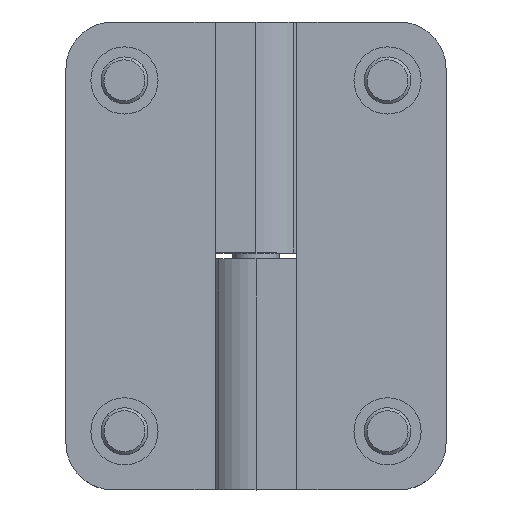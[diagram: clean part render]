
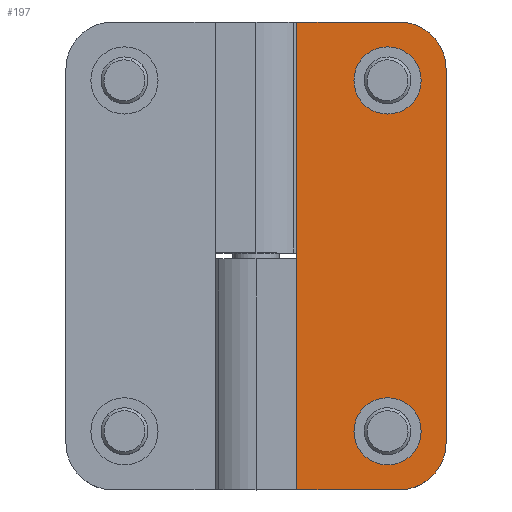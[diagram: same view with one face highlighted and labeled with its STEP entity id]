
A CAD part, top view. The second image highlights one B-rep face of the part: STEP entity #197.
In plain terms, the highlighted planar face has unit normal (0, 0, 1).
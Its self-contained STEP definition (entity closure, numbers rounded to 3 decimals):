
#2 = VERTEX_POINT ( 'NONE', #438 ) ;
#45 = EDGE_CURVE ( 'NONE', #284, #159, #700, .T. ) ;
#46 = ORIENTED_EDGE ( 'NONE', *, *, #196, .T. ) ;
#47 = ORIENTED_EDGE ( 'NONE', *, *, #48, .T. ) ;
#48 = EDGE_CURVE ( 'NONE', #194, #116, #695, .T. ) ;
#49 = ORIENTED_EDGE ( 'NONE', *, *, #100, .T. ) ;
#50 = ORIENTED_EDGE ( 'NONE', *, *, #207, .T. ) ;
#64 = ORIENTED_EDGE ( 'NONE', *, *, #286, .T. ) ;
#65 = ORIENTED_EDGE ( 'NONE', *, *, #45, .T. ) ;
#100 = EDGE_CURVE ( 'NONE', #116, #115, #634, .T. ) ;
#115 = VERTEX_POINT ( 'NONE', #799 ) ;
#116 = VERTEX_POINT ( 'NONE', #798 ) ;
#135 = EDGE_LOOP ( 'NONE', ( #64, #65, #46, #47, #49, #50 ) ) ;
#159 = VERTEX_POINT ( 'NONE', #681 ) ;
#180 = VERTEX_POINT ( 'NONE', #872 ) ;
#194 = VERTEX_POINT ( 'NONE', #891 ) ;
#196 = EDGE_CURVE ( 'NONE', #159, #194, #890, .T. ) ;
#197 = ADVANCED_FACE ( 'NONE', ( #886, #885, #884 ), #883, .F. ) ;
#204 = EDGE_LOOP ( 'NONE', ( #205, #290 ) ) ;
#205 = ORIENTED_EDGE ( 'NONE', *, *, #289, .F. ) ;
#207 = EDGE_CURVE ( 'NONE', #115, #180, #924, .T. ) ;
#256 = VERTEX_POINT ( 'NONE', #952 ) ;
#258 = EDGE_CURVE ( 'NONE', #256, #259, #951, .T. ) ;
#259 = VERTEX_POINT ( 'NONE', #946 ) ;
#269 = VERTEX_POINT ( 'NONE', #1031 ) ;
#271 = EDGE_CURVE ( 'NONE', #269, #2, #1030, .T. ) ;
#284 = VERTEX_POINT ( 'NONE', #1006 ) ;
#286 = EDGE_CURVE ( 'NONE', #180, #284, #1005, .T. ) ;
#289 = EDGE_CURVE ( 'NONE', #259, #256, #997, .T. ) ;
#290 = ORIENTED_EDGE ( 'NONE', *, *, #258, .F. ) ;
#291 = EDGE_LOOP ( 'NONE', ( #292, #294 ) ) ;
#292 = ORIENTED_EDGE ( 'NONE', *, *, #293, .F. ) ;
#293 = EDGE_CURVE ( 'NONE', #2, #269, #992, .T. ) ;
#294 = ORIENTED_EDGE ( 'NONE', *, *, #271, .F. ) ;
#438 = CARTESIAN_POINT ( 'NONE',  ( 15.75, 70., 19.5 ) ) ;
#631 = DIRECTION ( 'NONE',  ( 1., 0., 0. ) ) ;
#632 = VECTOR ( 'NONE', #631, 1000. ) ;
#633 = CARTESIAN_POINT ( 'NONE',  ( 0., 0., 19.5 ) ) ;
#634 = LINE ( 'NONE', #633, #632 ) ;
#681 = CARTESIAN_POINT ( 'NONE',  ( 0., 72., 19.5 ) ) ;
#691 = DIRECTION ( 'NONE',  ( -1., 0., 0. ) ) ;
#692 = DIRECTION ( 'NONE',  ( 0., 0., 1. ) ) ;
#693 = CARTESIAN_POINT ( 'NONE',  ( 8., 72., 19.5 ) ) ;
#694 = AXIS2_PLACEMENT_3D ( 'NONE', #693, #692, #691 ) ;
#695 = CIRCLE ( 'NONE', #847, 8. ) ;
#700 = CIRCLE ( 'NONE', #694, 8. ) ;
#798 = CARTESIAN_POINT ( 'NONE',  ( 8., 0., 19.5 ) ) ;
#799 = CARTESIAN_POINT ( 'NONE',  ( 25.5, 0., 19.5 ) ) ;
#844 = DIRECTION ( 'NONE',  ( -1., 0., 0. ) ) ;
#845 = DIRECTION ( 'NONE',  ( 0., 0., 1. ) ) ;
#846 = CARTESIAN_POINT ( 'NONE',  ( 8., 8., 19.5 ) ) ;
#847 = AXIS2_PLACEMENT_3D ( 'NONE', #846, #845, #844 ) ;
#872 = CARTESIAN_POINT ( 'NONE',  ( 25.5, 80., 19.5 ) ) ;
#878 = DIRECTION ( 'NONE',  ( -1., 0., 0. ) ) ;
#879 = DIRECTION ( 'NONE',  ( 0., 0., -1. ) ) ;
#880 = AXIS2_PLACEMENT_3D ( 'NONE', #882, #879, #878 ) ;
#882 = CARTESIAN_POINT ( 'NONE',  ( 0., 80., 19.5 ) ) ;
#883 = PLANE ( 'NONE',  #880 ) ;
#884 = FACE_OUTER_BOUND ( 'NONE', #135, .T. ) ;
#885 = FACE_BOUND ( 'NONE', #291, .T. ) ;
#886 = FACE_BOUND ( 'NONE', #204, .T. ) ;
#887 = DIRECTION ( 'NONE',  ( 0., -1., 0. ) ) ;
#888 = VECTOR ( 'NONE', #887, 1000. ) ;
#889 = CARTESIAN_POINT ( 'NONE',  ( 0., 0., 19.5 ) ) ;
#890 = LINE ( 'NONE', #889, #888 ) ;
#891 = CARTESIAN_POINT ( 'NONE',  ( 0., 8., 19.5 ) ) ;
#921 = DIRECTION ( 'NONE',  ( 0., 1., 0. ) ) ;
#922 = VECTOR ( 'NONE', #921, 1000. ) ;
#923 = CARTESIAN_POINT ( 'NONE',  ( 25.5, 0., 19.5 ) ) ;
#924 = LINE ( 'NONE', #923, #922 ) ;
#946 = CARTESIAN_POINT ( 'NONE',  ( 15.75, 10., 19.5 ) ) ;
#947 = DIRECTION ( 'NONE',  ( 1., 0., 0. ) ) ;
#948 = DIRECTION ( 'NONE',  ( 0., 0., 1. ) ) ;
#949 = CARTESIAN_POINT ( 'NONE',  ( 10., 10., 19.5 ) ) ;
#950 = AXIS2_PLACEMENT_3D ( 'NONE', #949, #948, #947 ) ;
#951 = CIRCLE ( 'NONE', #950, 5.75 ) ;
#952 = CARTESIAN_POINT ( 'NONE',  ( 4.25, 10., 19.5 ) ) ;
#988 = DIRECTION ( 'NONE',  ( 1., 0., 0. ) ) ;
#989 = DIRECTION ( 'NONE',  ( 0., 0., 1. ) ) ;
#990 = CARTESIAN_POINT ( 'NONE',  ( 10., 70., 19.5 ) ) ;
#991 = AXIS2_PLACEMENT_3D ( 'NONE', #990, #989, #988 ) ;
#992 = CIRCLE ( 'NONE', #991, 5.75 ) ;
#993 = DIRECTION ( 'NONE',  ( 1., 0., 0. ) ) ;
#994 = DIRECTION ( 'NONE',  ( 0., 0., 1. ) ) ;
#995 = CARTESIAN_POINT ( 'NONE',  ( 10., 10., 19.5 ) ) ;
#996 = AXIS2_PLACEMENT_3D ( 'NONE', #995, #994, #993 ) ;
#997 = CIRCLE ( 'NONE', #996, 5.75 ) ;
#1002 = DIRECTION ( 'NONE',  ( -1., 0., 0. ) ) ;
#1003 = VECTOR ( 'NONE', #1002, 1000. ) ;
#1004 = CARTESIAN_POINT ( 'NONE',  ( 0., 80., 19.5 ) ) ;
#1005 = LINE ( 'NONE', #1004, #1003 ) ;
#1006 = CARTESIAN_POINT ( 'NONE',  ( 8., 80., 19.5 ) ) ;
#1026 = DIRECTION ( 'NONE',  ( 1., 0., 0. ) ) ;
#1027 = DIRECTION ( 'NONE',  ( 0., 0., 1. ) ) ;
#1028 = CARTESIAN_POINT ( 'NONE',  ( 10., 70., 19.5 ) ) ;
#1029 = AXIS2_PLACEMENT_3D ( 'NONE', #1028, #1027, #1026 ) ;
#1030 = CIRCLE ( 'NONE', #1029, 5.75 ) ;
#1031 = CARTESIAN_POINT ( 'NONE',  ( 4.25, 70., 19.5 ) ) ;
